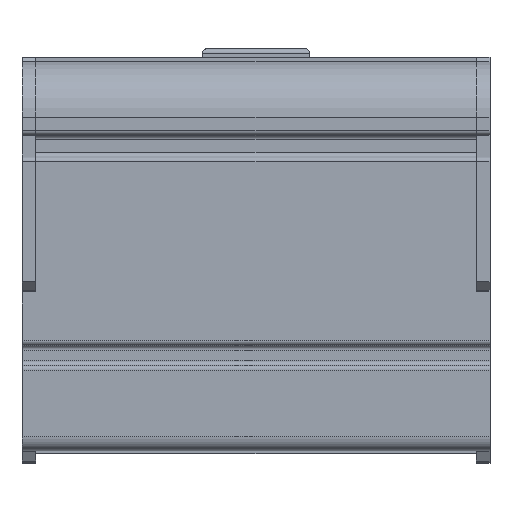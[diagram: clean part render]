
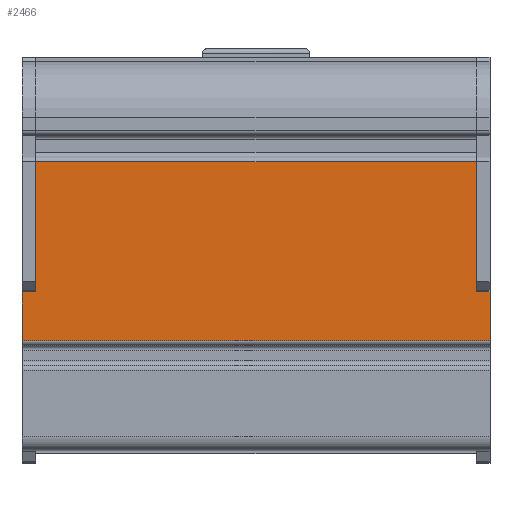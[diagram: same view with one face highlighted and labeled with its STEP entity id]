
A CAD part, top view. The second image highlights one B-rep face of the part: STEP entity #2466.
In plain terms, the highlighted planar face has unit normal (0, 0, 1).
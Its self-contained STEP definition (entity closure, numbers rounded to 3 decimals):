
#700 = EDGE_CURVE ( 'NONE', #26895, #26894, #32489, .T. ) ;
#730 = EDGE_CURVE ( 'NONE', #26941, #26937, #32545, .T. ) ;
#731 = EDGE_CURVE ( 'NONE', #26942, #26938, #32547, .T. ) ;
#732 = EDGE_CURVE ( 'NONE', #26940, #26894, #32549, .T. ) ;
#758 = EDGE_CURVE ( 'NONE', #26937, #26938, #32583, .T. ) ;
#760 = EDGE_CURVE ( 'NONE', #26941, #26939, #32590, .T. ) ;
#761 = EDGE_CURVE ( 'NONE', #26939, #26940, #32595, .T. ) ;
#763 = EDGE_CURVE ( 'NONE', #26942, #26895, #32601, .T. ) ;
#2466 = ADVANCED_FACE ( 'NONE', ( #33010 ), #35333, .F. ) ;
#20543 = CARTESIAN_POINT ( 'NONE',  ( 47.2, -10.65, 42.9 ) ) ;
#20544 = CARTESIAN_POINT ( 'NONE',  ( 47.2, -38.55, 42.9 ) ) ;
#20586 = CARTESIAN_POINT ( 'NONE',  ( -50.2, -49.05, 42.9 ) ) ;
#20587 = CARTESIAN_POINT ( 'NONE',  ( 50.2, -49.05, 42.9 ) ) ;
#20588 = CARTESIAN_POINT ( 'NONE',  ( -47.2, -38.55, 42.9 ) ) ;
#20589 = CARTESIAN_POINT ( 'NONE',  ( -47.2, -10.65, 42.9 ) ) ;
#20590 = CARTESIAN_POINT ( 'NONE',  ( -50.2, -38.55, 42.9 ) ) ;
#20591 = CARTESIAN_POINT ( 'NONE',  ( 50.2, -38.55, 42.9 ) ) ;
#26894 = VERTEX_POINT ( 'NONE', #20543 ) ;
#26895 = VERTEX_POINT ( 'NONE', #20544 ) ;
#26937 = VERTEX_POINT ( 'NONE', #20586 ) ;
#26938 = VERTEX_POINT ( 'NONE', #20587 ) ;
#26939 = VERTEX_POINT ( 'NONE', #20588 ) ;
#26940 = VERTEX_POINT ( 'NONE', #20589 ) ;
#26941 = VERTEX_POINT ( 'NONE', #20590 ) ;
#26942 = VERTEX_POINT ( 'NONE', #20591 ) ;
#31027 = EDGE_LOOP ( 'NONE', ( #34780, #34837, #34839, #34829, #34827, #34824, #34819, #34817 ) ) ;
#32482 = VECTOR ( 'NONE', #33924, 1000. ) ;
#32489 = LINE ( 'NONE', #33918, #32482 ) ;
#32545 = LINE ( 'NONE', #33988, #32546 ) ;
#32546 = VECTOR ( 'NONE', #33989, 1000. ) ;
#32547 = LINE ( 'NONE', #33990, #32548 ) ;
#32548 = VECTOR ( 'NONE', #33991, 1000. ) ;
#32549 = LINE ( 'NONE', #33992, #32550 ) ;
#32550 = VECTOR ( 'NONE', #33993, 1000. ) ;
#32583 = LINE ( 'NONE', #34054, #32584 ) ;
#32584 = VECTOR ( 'NONE', #34055, 1000. ) ;
#32590 = LINE ( 'NONE', #34058, #32592 ) ;
#32592 = VECTOR ( 'NONE', #34059, 1000. ) ;
#32595 = LINE ( 'NONE', #34051, #32597 ) ;
#32597 = VECTOR ( 'NONE', #34062, 1000. ) ;
#32601 = LINE ( 'NONE', #34065, #32602 ) ;
#32602 = VECTOR ( 'NONE', #34066, 1000. ) ;
#33010 = FACE_OUTER_BOUND ( 'NONE', #31027, .T. ) ;
#33918 = CARTESIAN_POINT ( 'NONE',  ( 47.2, -10.65, 42.9 ) ) ;
#33924 = DIRECTION ( 'NONE',  ( 0., 1., 0. ) ) ;
#33988 = CARTESIAN_POINT ( 'NONE',  ( -50.2, -49.05, 42.9 ) ) ;
#33989 = DIRECTION ( 'NONE',  ( 0., -1., 0. ) ) ;
#33990 = CARTESIAN_POINT ( 'NONE',  ( 50.2, -49.05, 42.9 ) ) ;
#33991 = DIRECTION ( 'NONE',  ( 0., -1., 0. ) ) ;
#33992 = CARTESIAN_POINT ( 'NONE',  ( -136.155, -10.65, 42.9 ) ) ;
#33993 = DIRECTION ( 'NONE',  ( 1., 0., 0. ) ) ;
#34051 = CARTESIAN_POINT ( 'NONE',  ( -47.2, -10.65, 42.9 ) ) ;
#34054 = CARTESIAN_POINT ( 'NONE',  ( -136.155, -49.05, 42.9 ) ) ;
#34055 = DIRECTION ( 'NONE',  ( 1., 0., 0. ) ) ;
#34058 = CARTESIAN_POINT ( 'NONE',  ( -50.2, -38.55, 42.9 ) ) ;
#34059 = DIRECTION ( 'NONE',  ( 1., 0., 0. ) ) ;
#34062 = DIRECTION ( 'NONE',  ( 0., 1., 0. ) ) ;
#34065 = CARTESIAN_POINT ( 'NONE',  ( 50.2, -38.55, 42.9 ) ) ;
#34066 = DIRECTION ( 'NONE',  ( -1., 0., 0. ) ) ;
#34780 = ORIENTED_EDGE ( 'NONE', *, *, #761, .F. ) ;
#34817 = ORIENTED_EDGE ( 'NONE', *, *, #732, .F. ) ;
#34819 = ORIENTED_EDGE ( 'NONE', *, *, #700, .T. ) ;
#34824 = ORIENTED_EDGE ( 'NONE', *, *, #763, .T. ) ;
#34827 = ORIENTED_EDGE ( 'NONE', *, *, #731, .F. ) ;
#34829 = ORIENTED_EDGE ( 'NONE', *, *, #758, .T. ) ;
#34837 = ORIENTED_EDGE ( 'NONE', *, *, #760, .F. ) ;
#34839 = ORIENTED_EDGE ( 'NONE', *, *, #730, .T. ) ;
#35331 = CARTESIAN_POINT ( 'NONE',  ( -136.155, -10.65, 42.9 ) ) ;
#35333 = PLANE ( 'NONE',  #36187 ) ;
#35336 = DIRECTION ( 'NONE',  ( 0., 0., -1. ) ) ;
#35337 = DIRECTION ( 'NONE',  ( 0., 1., 0. ) ) ;
#36187 = AXIS2_PLACEMENT_3D ( 'NONE', #35331, #35336, #35337 ) ;
